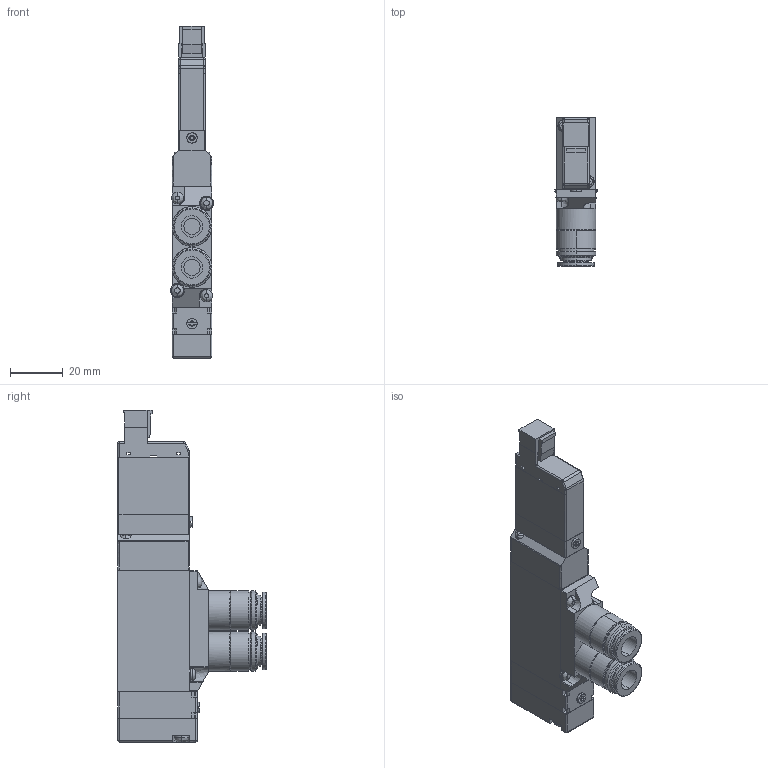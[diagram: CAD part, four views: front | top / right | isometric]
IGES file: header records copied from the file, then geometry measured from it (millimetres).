
Start section: ------------------------------------------------------------------------
Global section: file name: D:\ICADMX\tmp\trans3d_spg\CVICAD02.7120.F15T2-FJ-PS_17070.igs; native system: spGate; preprocessor: ver12.6.6; author: Unknown; organization: Unknown; date: 210712.185017; units: millimetre
Bounding box: 16.2 x 56 x 125.5 mm (x, y, z)
Volume: 51504.8 mm3; surface area: 21086.5 mm2
Topology: 7 solids, 7 shells, 433 faces, 1078 edges, 679 vertices
Faces by surface type: bspline 433
